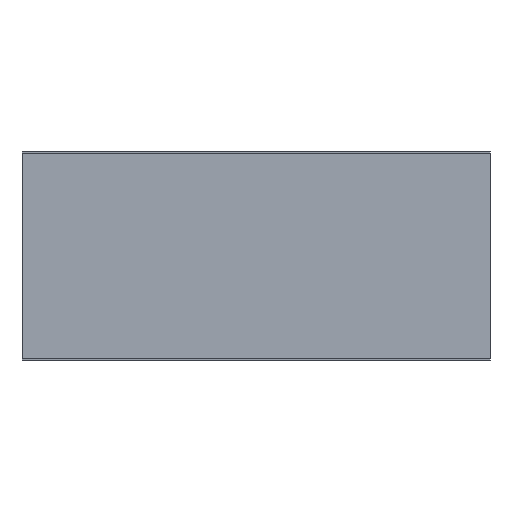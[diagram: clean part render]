
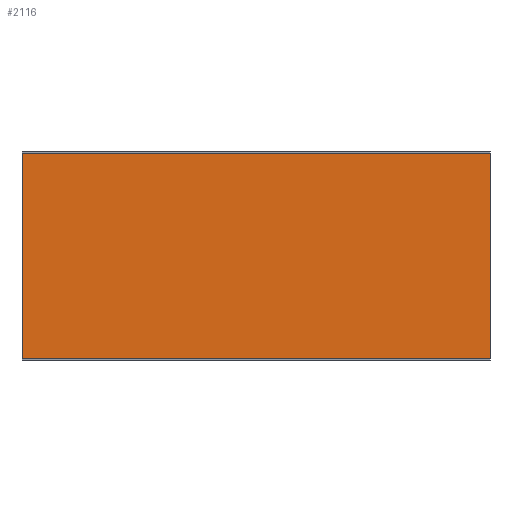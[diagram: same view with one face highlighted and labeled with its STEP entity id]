
A CAD part, front view. The second image highlights one B-rep face of the part: STEP entity #2116.
In plain terms, the highlighted planar face has unit normal (0, -1, 0).
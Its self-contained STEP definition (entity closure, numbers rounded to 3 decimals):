
#92=PLANE('',#2293);
#174=FACE_OUTER_BOUND('',#286,.T.);
#286=EDGE_LOOP('',(#1597,#1598,#1599,#1600));
#403=LINE('',#3368,#591);
#413=LINE('',#3390,#601);
#441=LINE('',#3469,#629);
#442=LINE('',#3471,#630);
#591=VECTOR('',#2570,10.);
#601=VECTOR('',#2584,10.);
#629=VECTOR('',#2682,10.);
#630=VECTOR('',#2685,10.);
#873=VERTEX_POINT('',#3365);
#874=VERTEX_POINT('',#3367);
#883=VERTEX_POINT('',#3387);
#884=VERTEX_POINT('',#3389);
#1095=EDGE_CURVE('',#874,#873,#403,.T.);
#1105=EDGE_CURVE('',#884,#883,#413,.T.);
#1149=EDGE_CURVE('',#874,#883,#441,.T.);
#1150=EDGE_CURVE('',#873,#884,#442,.T.);
#1597=ORIENTED_EDGE('',*,*,#1105,.T.);
#1598=ORIENTED_EDGE('',*,*,#1149,.F.);
#1599=ORIENTED_EDGE('',*,*,#1095,.T.);
#1600=ORIENTED_EDGE('',*,*,#1150,.T.);
#2116=ADVANCED_FACE('',(#174),#92,.T.);
#2293=AXIS2_PLACEMENT_3D('',#3472,#2686,#2687);
#2570=DIRECTION('',(0.,0.,-1.));
#2584=DIRECTION('',(0.,0.,1.));
#2682=DIRECTION('',(1.,0.,0.));
#2685=DIRECTION('',(1.,0.,0.));
#2686=DIRECTION('center_axis',(0.,-1.,0.));
#2687=DIRECTION('ref_axis',(0.,0.,
1.));
#3365=CARTESIAN_POINT('',(-140.,0.,-61.5));
#3367=CARTESIAN_POINT('',(-140.,0.,61.5));
#3368=CARTESIAN_POINT('',(-140.,0.,61.5));
#3387=CARTESIAN_POINT('',(140.,0.,61.5));
#3389=CARTESIAN_POINT('',(140.,0.,-61.5));
#3390=CARTESIAN_POINT('',(140.,0.,-61.5));
#3469=CARTESIAN_POINT('',(139.,0.,61.5));
#3471=CARTESIAN_POINT('',(-139.,0.,-61.5));
#3472=CARTESIAN_POINT('Origin',(139.,0.,-61.5));
